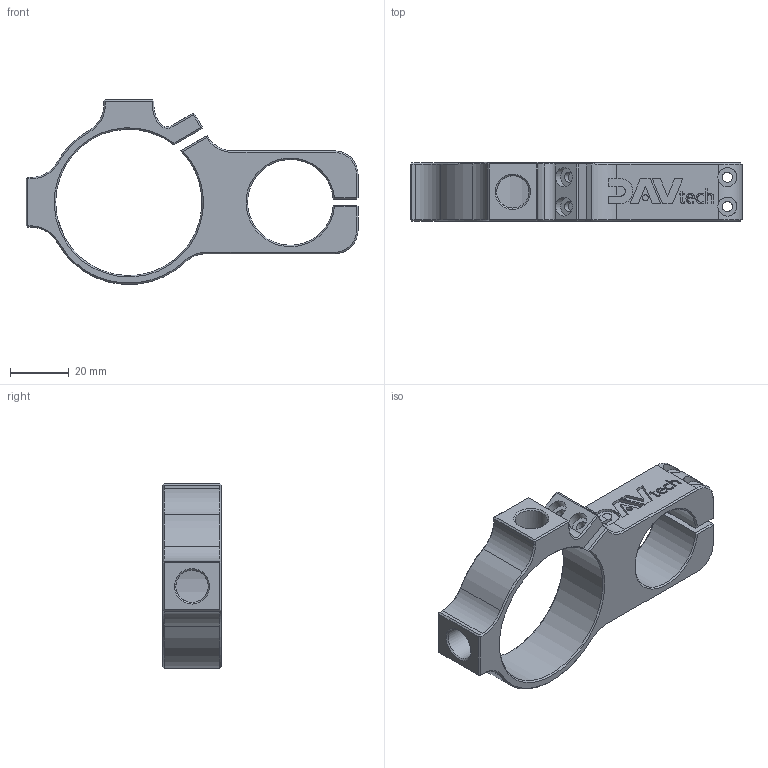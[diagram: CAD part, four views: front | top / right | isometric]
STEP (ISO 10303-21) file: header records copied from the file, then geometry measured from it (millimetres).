
FILE_DESCRIPTION (( 'STEP AP214' ), '1' );
FILE_NAME ('SEMCO12-HOLDER-B.STEP', '2024-10-14T13:57:32', ( '' ), ( '' ), 'SwSTEP 2.0', 'SolidWorks 2024', '' );
FILE_SCHEMA (( 'AUTOMOTIVE_DESIGN' ));
Length unit declared in the file: millimetre
Products named in the file (1): SEMCO12-HOLDER-B
Bounding box: 113 x 20 x 62.94 mm (x, y, z)
Volume: 34430.9 mm3; surface area: 18034.6 mm2
Topology: 1 solids, 1 shells, 254 faces, 626 edges, 388 vertices
Faces by surface type: plane 164, bspline 35, cone 28, cylinder 27
Full cylindrical faces by diameter (mm): 3.4 x8, 6.5 x4, 11 x2
Entity records: 7755 total; most frequent: CARTESIAN_POINT 2040, ORIENTED_EDGE 1212, DIRECTION 1038, EDGE_CURVE 606, LINE 430, VECTOR 430, VERTEX_POINT 384, EDGE_LOOP 304
